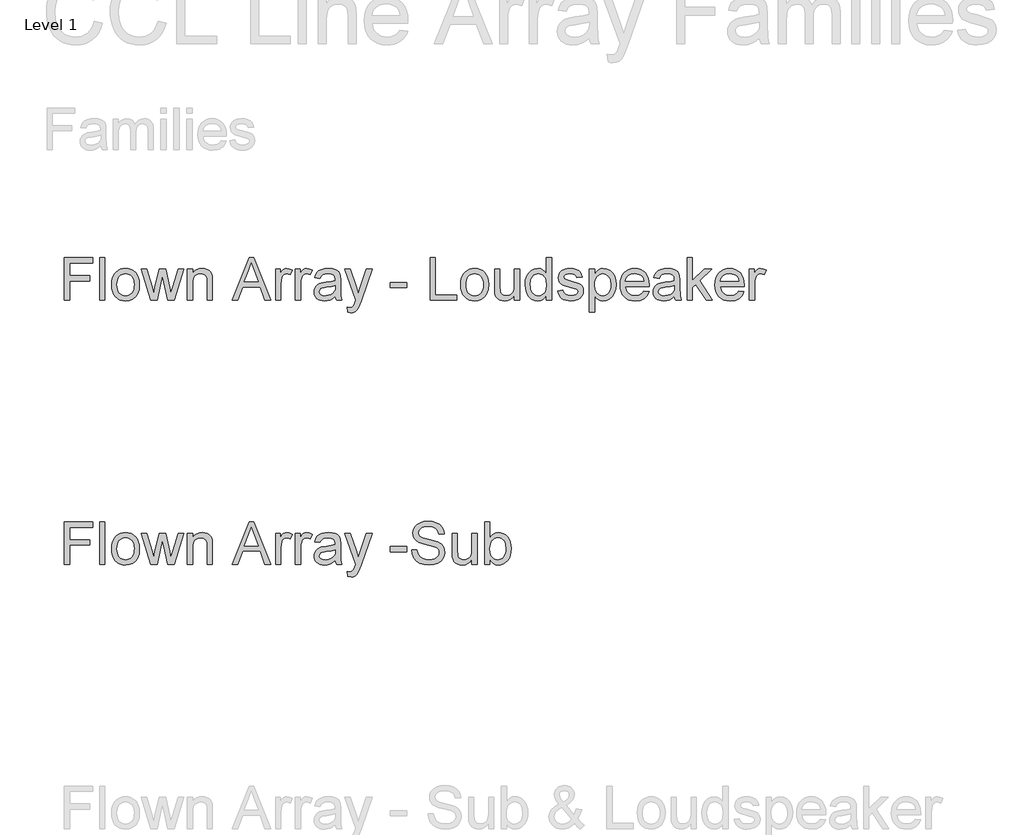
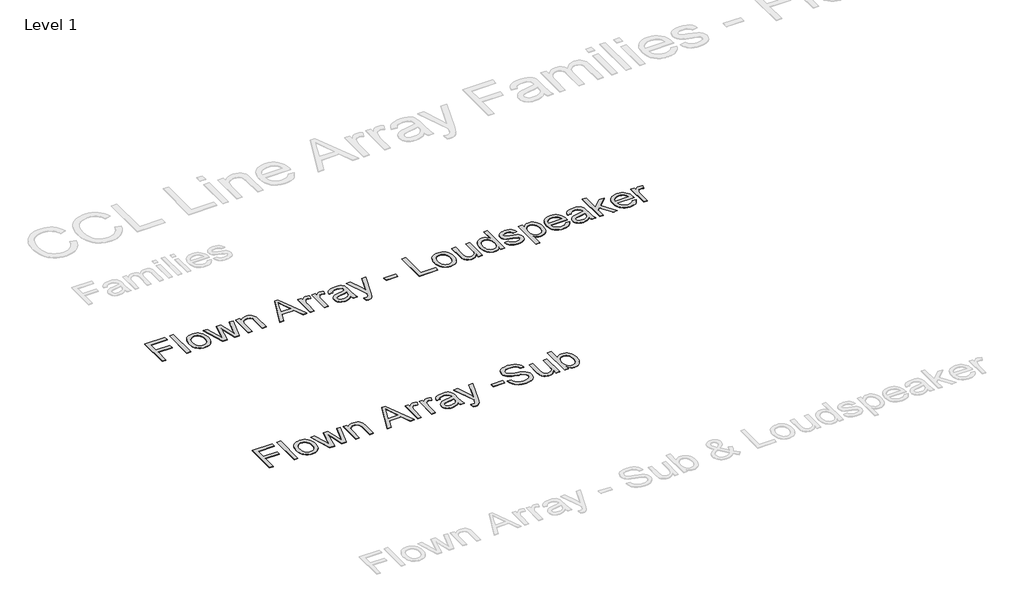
# One storey, part 20 of 31: 2 proxies.
"""IFC4 building model written with IfcOpenShell, lengths in millimetres."""

import ifcopenshell
import ifcopenshell.guid

model = None  # the IFC model being written
_history = None  # IfcOwnerHistory: only IFC2X3 demands one
_inside = {}  # id of a spatial element -> (the spatial element, [elements in it])
_under = {}  # id of a project, library or spatial element -> (it, [spatial elements below it])
_declared = {}  # id of a project -> (the project, [libraries it declares])
_typed = {}  # id of a type object -> (the type object, [elements of that type])
_made_of = {}  # id of a material, layer set ... -> (it, [elements and type objects made of it])


def new_model(schema):
    """Start an empty IFC model of exactly this schema.

    Asked for "IFC4X3", IfcOpenShell would pick the latest addendum, in which some entities
    have other attributes; the version numbers below select the first issue.
    IFC2X3 requires an IfcOwnerHistory on every rooted entity: one is made here for all.
    """
    global model, _history
    if schema == "IFC4X3":
        model = ifcopenshell.file(schema_version=(4, 3, 0, 0))
    else:
        model = ifcopenshell.file(schema=schema)
    _inside.clear()
    _under.clear()
    _declared.clear()
    _typed.clear()
    _made_of.clear()
    _history = None
    if model.schema == "IFC2X3":
        org = make("IfcOrganization", Name="unknown")
        user = make(
            "IfcPersonAndOrganization",
            ThePerson=make("IfcPerson", FamilyName="unknown"),
            TheOrganization=org,
        )
        app = make(
            "IfcApplication",
            ApplicationDeveloper=org,
            Version="unknown",
            ApplicationFullName="unknown",
            ApplicationIdentifier="unknown",
        )
        _history = make(
            "IfcOwnerHistory",
            OwningUser=user,
            OwningApplication=app,
            ChangeAction="ADDED",
            CreationDate=0,
        )
    return model


def make(cls, **values):
    """One entity of the class cls with the attributes given. An attribute that is None is left unset."""
    return model.create_entity(
        cls, **{name: value for name, value in values.items() if value is not None}
    )


def rooted(cls, **values):
    """An entity with a GlobalId (a new one), such as an element, a storey or a relation."""
    return make(cls, GlobalId=ifcopenshell.guid.new(), OwnerHistory=_history, **values)


def si_unit(unit_type, name, prefix=None):
    """IfcSIUnit, for example si_unit("LENGTHUNIT", "METRE", prefix="MILLI")."""
    return make("IfcSIUnit", UnitType=unit_type, Prefix=prefix, Name=name)


def assignment(units):
    """IfcUnitAssignment: the units of a project."""
    return None if units is None else make("IfcUnitAssignment", Units=units)


def point(xyz):
    """IfcCartesianPoint."""
    return None if xyz is None else make("IfcCartesianPoint", Coordinates=xyz)


def direction(xyz):
    """IfcDirection."""
    return None if xyz is None else make("IfcDirection", DirectionRatios=xyz)


def frame(location, z_axis=None, x_axis=None):
    """IfcAxis2Placement3D, a coordinate frame: its origin and axes. An axis left out is left unset."""
    return make(
        "IfcAxis2Placement3D",
        Location=point(location),
        Axis=direction(z_axis),
        RefDirection=direction(x_axis),
    )


def origin():
    """The frame at (0, 0, 0) with its axes left unset."""
    return frame((0.0, 0.0, 0.0))


def origin_with_axes():
    """The frame at (0, 0, 0) with the z axis (0, 0, 1) and the x axis (1, 0, 0) written out."""
    return frame((0.0, 0.0, 0.0), z_axis=(0.0, 0.0, 1.0), x_axis=(1.0, 0.0, 0.0))


def place(relative_to, where):
    """IfcLocalPlacement: puts the frame where relative to a parent placement (None: the world)."""
    return make(
        "IfcLocalPlacement", PlacementRelTo=relative_to, RelativePlacement=where
    )


def context(
    kind, dimensions, precision=None, world=None, true_north=None, identifier=None
):
    """IfcGeometricRepresentationContext, for example the 3D "Model" context."""
    return make(
        "IfcGeometricRepresentationContext",
        ContextIdentifier=identifier,
        ContextType=kind,
        CoordinateSpaceDimension=dimensions,
        Precision=precision,
        WorldCoordinateSystem=world,
        TrueNorth=true_north,
    )


def project(units=None, contexts=None):
    """IfcProject with its units and contexts."""
    return rooted(
        "IfcProject",
        Name="project",
        RepresentationContexts=contexts,
        UnitsInContext=assignment(units),
    )


def spatial(cls, under=None, at=None, **own):
    """A site, building, storey or space (cls), placed at a placement, below another one or the project."""
    s = rooted(cls, ObjectPlacement=at, **own)
    if under is not None:
        _under.setdefault(under.id(), (under, []))[1].append(s)
    return s


def polyline(points):
    """IfcPolyline through the points."""
    return make("IfcPolyline", Points=[point(p) for p in points])


def outline(outer, holes=None, kind="AREA"):
    """IfcArbitraryClosedProfileDef: a profile drawn as a closed curve; with holes, ...WithVoids."""
    if holes is None:
        return make("IfcArbitraryClosedProfileDef", ProfileType=kind, OuterCurve=outer)
    return make(
        "IfcArbitraryProfileDefWithVoids",
        ProfileType=kind,
        OuterCurve=outer,
        InnerCurves=holes,
    )


def extrude(swept, where, along, depth):
    """IfcExtrudedAreaSolid: the profile swept, set in the frame where, extruded along a direction by depth."""
    return make(
        "IfcExtrudedAreaSolid",
        SweptArea=swept,
        Position=where,
        ExtrudedDirection=direction(along),
        Depth=depth,
    )


def shape(context_of_items, identifier, shape_type, items):
    """IfcShapeRepresentation: the items that make up one representation, for example the "Body"."""
    return make(
        "IfcShapeRepresentation",
        ContextOfItems=context_of_items,
        RepresentationIdentifier=identifier,
        RepresentationType=shape_type,
        Items=items,
    )


def made_of(thing, what):
    """Note that an element or type object is made of a material, layer set ...; save() writes the relation."""
    if what is not None:
        _made_of.setdefault(what.id(), (what, []))[1].append(thing)
    return thing


def element(
    cls,
    number,
    at=None,
    inside=None,
    cuts=None,
    type_object=None,
    material=None,
    context=None,
    identifier="Body",
    shape_type=None,
    held_by="IfcProductDefinitionShape",
    body=None,
    shapes=None,
    **own,
):
    """One element of the class cls, such as IfcWall. Its Tag is "e" and its number.

    at: its placement. inside: the storey or other place that contains it. cuts: it is an
    opening in that element (IfcRelVoidsElement). A single representation is given by context,
    identifier, shape_type and body (its items); several are given by shapes. held_by: the class
    of the entity that holds the representations. save() writes the other relations.
    """
    e = rooted(cls, Tag="e%d" % number, ObjectPlacement=at, **own)
    if body is not None:
        shapes = [shape(context, identifier, shape_type, body)]
    if shapes is not None:
        e.Representation = make(held_by, Representations=shapes)
    if inside is not None:
        _inside.setdefault(inside.id(), (inside, []))[1].append(e)
    if cuts is not None:
        rooted(
            "IfcRelVoidsElement", RelatingBuildingElement=cuts, RelatedOpeningElement=e
        )
    if type_object is not None:
        _typed.setdefault(type_object.id(), (type_object, []))[1].append(e)
    return made_of(e, material)


def aggregate(whole, parts):
    """IfcRelAggregates: a whole, such as a stair, and the parts it consists of."""
    return rooted("IfcRelAggregates", RelatingObject=whole, RelatedObjects=parts)


def save(model, path):
    """Write the relations noted so far, then the file.

    IfcRelAggregates (storeys below a building ...), IfcRelContainedInSpatialStructure (elements
    in a storey), IfcRelDefinesByType, IfcRelAssociatesMaterial and IfcRelDeclares: one each for
    every whole, place, type object, material and project.
    """
    for whole, parts in _under.values():
        aggregate(whole, parts)
    for where, things in _inside.values():
        rooted(
            "IfcRelContainedInSpatialStructure",
            RelatedElements=things,
            RelatingStructure=where,
        )
    for kind, things in _typed.values():
        rooted("IfcRelDefinesByType", RelatedObjects=things, RelatingType=kind)
    for what, things in _made_of.values():
        rooted("IfcRelAssociatesMaterial", RelatedObjects=things, RelatingMaterial=what)
    for by, libraries in _declared.values():
        rooted("IfcRelDeclares", RelatingContext=by, RelatedDefinitions=libraries)
    model.write(path)


model = new_model("IFC4")

# Units and contexts
model_context = context("Model", 3, world=origin())
ifc_project = project(units=[si_unit("LENGTHUNIT", "METRE", prefix="MILLI")], contexts=[model_context])

# Site, building, storey
site = spatial("IfcSite", under=ifc_project)
building = spatial("IfcBuilding", under=site)
storey = spatial("IfcBuildingStorey", under=building, Name="Level 1", Elevation=0.0)

# Proxies
placement = place(None, origin())
element("IfcBuildingElementProxy", 1, Name="400mm Arial", ObjectType="400mm Arial", at=placement, inside=storey, context=model_context, shape_type="SweptSolid", body=[
    extrude(outline(polyline([(-20892.4795291, 6663.8227268), (-20892.4795291, 7065.6479674), (-20622.5031956, 7065.6479674), (-20622.5031956, 7015.4198123), (-20842.251374, 7015.4198123), (-20842.251374, 6896.127944), (-20653.8957925, 6896.127944), (-20653.8957925, 6845.899789), (-20842.251374, 6845.899789), (-20842.251374, 6663.8227268), (-20892.4795291, 6663.8227268)])), origin_with_axes(), (0.0, 0.0, 1.0), 5.0),
    extrude(outline(polyline([(-20559.7180017, 6663.8227268), (-20559.7180017, 7065.6479674), (-20509.4898467, 7065.6479674), (-20509.4898467, 6663.8227268), (-20559.7180017, 6663.8227268)])), origin_with_axes(), (0.0, 0.0, 1.0), 5.0),
    extrude(outline(polyline([(-20446.7046528, 6811.3679324), (-20443.9884574, 6849.5847403), (-20435.8398712, 6882.5163102), (-20422.2588942, 6910.1626422), (-20403.2455264, 6932.5237361), (-20384.1034, 6946.8159516), (-20362.9747107, 6957.024677), (-20339.8594587, 6963.1499122), (-20314.7576439, 6965.1916573), (-20287.0469326, 6962.7053881), (-20261.991103, 6955.2465807), (-20239.5901552, 6942.8152349), (-20219.8440891, 6925.4113509), (-20203.727792, 6903.6235397), (-20192.2161513, 6878.0404126), (-20185.3091668, 6848.6619696), (-20183.0068387, 6815.4882107), (-20187.0780661, 6764.7450208), (-20199.2917483, 6726.1174113), (-20219.2922661, 6697.1896238), (-20246.7240002, 6675.5458997), (-20279.3060823, 6662.0446305), (-20314.7576439, 6657.5442074), (-20342.8730254, 6660.0212795), (-20368.1618468, 6667.4524958), (-20390.6241083, 6679.8378563), (-20410.2598098, 6697.177361), (-20426.2044286, 6719.1767044), (-20437.5934421, 6745.5415807), (-20444.4268501, 6776.27199), (-20446.7046528, 6811.3679324)]), holes=[polyline([(-20396.4764977, 6811.4660342), (-20395.0233639, 6787.1030491), (-20390.6639622, 6766.0080823), (-20383.3982928, 6748.181134), (-20373.2263556, 6733.622204), (-20360.8532579, 6722.3128984), (-20346.9841066, 6714.2348229), (-20331.618902, 6709.3879776), (-20314.7576439, 6707.7723625), (-20297.9822249, 6709.3971747), (-20282.6783339, 6714.2716111), (-20268.8459709, 6722.3956718), (-20256.4851358, 6733.7693568), (-20246.3131987, 6748.4723739), (-20239.0475293, 6766.5844308), (-20234.6881276, 6788.1055275), (-20233.2349937, 6813.0356641), (-20234.6973247, 6836.626097), (-20239.0843175, 6857.1692408), (-20246.3959721, 6874.6650953), (-20256.6322886, 6889.1136607), (-20269.0391089, 6900.4229663), (-20282.8622749, 6908.5010418), (-20298.1017865, 6913.3478871), (-20314.7576439, 6914.9635022), (-20331.618902, 6913.3540185), (-20346.9841066, 6908.5255673), (-20360.8532579, 6900.4781486), (-20373.2263556, 6889.2117625), (-20383.3982928, 6874.6957521), (-20390.6639622, 6856.8994606), (-20395.0233639, 6835.822888), (-20396.4764977, 6811.4660342)])]), origin_with_axes(), (0.0, 0.0, 1.0), 5.0),
    extrude(outline(polyline([(-20077.1549259, 6663.8227268), (-20167.3105402, 6958.9131379), (-20115.2184497, 6958.9131379), (-20064.2054797, 6786.7443641), (-20048.9996906, 6725.2344945), (-20036.5407537, 6784.4880212), (-19996.0246833, 6958.9131379), (-19936.3787491, 6958.9131379), (-19895.8626787, 6784.9785306), (-19884.7771679, 6731.3168102), (-19868.8846657, 6787.9215865), (-19817.8716957, 6958.9131379), (-19765.4852996, 6958.9131379), (-19855.9352195, 6663.8227268), (-19916.5621723, 6663.8227268), (-19955.2143073, 6836.8744174), (-19966.3979199, 6890.8304433), (-20016.1355657, 6663.8227268), (-20077.1549259, 6663.8227268)])), origin_with_axes(), (0.0, 0.0, 1.0), 5.0),
    extrude(outline(polyline([(-19730.953443, 6663.8227268), (-19730.953443, 6958.9131379), (-19680.7252879, 6958.9131379), (-19680.7252879, 6917.7103544), (-19663.2754186, 6938.4834244), (-19642.3184076, 6953.3213316), (-19617.8542549, 6962.2240758), (-19589.8829606, 6965.1916573), (-19565.1245023, 6962.8004243), (-19542.4507087, 6955.6267254), (-19523.5415741, 6944.5657401), (-19510.0770931, 6930.5126479), (-19500.9413569, 6913.5042369), (-19495.0184568, 6893.5772955), (-19492.3697064, 6845.0168722), (-19492.3697064, 6663.8227268), (-19542.5978615, 6663.8227268), (-19542.5978615, 6838.2478435), (-19544.044864, 6864.2203123), (-19548.3858715, 6882.6879885), (-19556.3934363, 6895.9194776), (-19568.8401105, 6906.1833852), (-19584.7939263, 6912.768473), (-19603.3229161, 6914.9635022), (-19632.741213, 6910.0338835), (-19657.8185024, 6895.2450273), (-19667.840221, 6883.1723664), (-19674.9985915, 6866.672859), (-19679.2936138, 6845.7465048), (-19680.7252879, 6820.393304), (-19680.7252879, 6663.8227268), (-19730.953443, 6663.8227268)])), origin_with_axes(), (0.0, 0.0, 1.0), 5.0),
    extrude(outline(polyline([(-19306.7609771, 6663.8227268), (-19146.3644272, 7065.6479674), (-19103.5920139, 7065.6479674), (-18943.2935659, 6663.8227268), (-18996.366675, 6663.8227268), (-19042.278348, 6789.3931145), (-19207.8742968, 6789.3931145), (-19253.7859698, 6663.8227268), (-19306.7609771, 6663.8227268)]), holes=[polyline([(-19189.4311461, 6839.6212696), (-19060.6233968, 6839.6212696), (-19096.921087, 6938.409848), (-19125.0763224, 7015.4198123), (-19150.0922981, 6947.0428122), (-19189.4311461, 6839.6212696)])]), origin_with_axes(), (0.0, 0.0, 1.0), 5.0),
    extrude(outline(polyline([(-18895.9103649, 6663.8227268), (-18895.9103649, 6958.9131379), (-18851.9607292, 6958.9131379), (-18851.9607292, 6915.2578078), (-18835.7248705, 6940.5680891), (-18820.764336, 6955.4795726), (-18805.7547506, 6962.7636361), (-18789.3717391, 6965.1916573), (-18764.3557634, 6961.3166336), (-18738.9473803, 6949.6915625), (-18755.7227992, 6904.6628063), (-18773.381135, 6912.3883282), (-18791.0394708, 6914.9635022), (-18806.0367935, 6912.4864301), (-18819.4399608, 6905.0552138), (-18830.2679542, 6893.233939), (-18837.539755, 6877.5866915), (-18843.6465961, 6849.529558), (-18845.6822098, 6818.921776), (-18845.6822098, 6663.8227268), (-18895.9103649, 6663.8227268)])), origin_with_axes(), (0.0, 0.0, 1.0), 5.0),
    extrude(outline(polyline([(-18707.5547833, 6663.8227268), (-18707.5547833, 6958.9131379), (-18663.6051477, 6958.9131379), (-18663.6051477, 6915.2578078), (-18647.3692889, 6940.5680891), (-18632.4087545, 6955.4795726), (-18617.3991691, 6962.7636361), (-18601.0161575, 6965.1916573), (-18576.0001819, 6961.3166336), (-18550.5917987, 6949.6915625), (-18567.3672177, 6904.6628063), (-18585.0255535, 6912.3883282), (-18602.6838893, 6914.9635022), (-18617.6812119, 6912.4864301), (-18631.0843793, 6905.0552138), (-18641.9123727, 6893.233939), (-18649.1841734, 6877.5866915), (-18655.2910146, 6849.529558), (-18657.3266283, 6818.921776), (-18657.3266283, 6663.8227268), (-18707.5547833, 6663.8227268)])), origin_with_axes(), (0.0, 0.0, 1.0), 5.0),
    extrude(outline(polyline([(-18330.8436203, 6701.4938431), (-18354.8417891, 6680.9169769), (-18379.5511964, 6667.4524958), (-18405.535928, 6660.0212795), (-18433.3600696, 6657.5442074), (-18455.7242292, 6659.0341295), (-18475.3354053, 6663.5038958), (-18492.1935977, 6670.9535062), (-18506.2988065, 6681.3829607), (-18517.4364339, 6694.1300719), (-18525.3918821, 6708.532652), (-18530.165151, 6724.5907011), (-18531.7562406, 6742.3042191), (-18529.3527449, 6763.1263401), (-18522.1422578, 6782.0354746), (-18511.0199588, 6798.2222824), (-18496.8810274, 6810.877423), (-18480.265024, 6820.4423549), (-18461.7115087, 6827.3585364), (-18418.2523823, 6834.91238), (-18366.8960558, 6842.8586311), (-18331.1379259, 6852.1783084), (-18330.8436203, 6863.361921), (-18334.301711, 6885.7781972), (-18344.6759833, 6900.4444261), (-18367.8770745, 6911.3337332), (-18400.2016391, 6914.9635022), (-18430.122708, 6912.5477438), (-18451.0184054, 6905.3004685), (-18465.2677013, 6891.8973011), (-18475.2495661, 6871.0138665), (-18525.4777212, 6877.2923859), (-18516.7589179, 6904.7609082), (-18503.748158, 6926.3433186), (-18485.2314309, 6942.8489574), (-18459.9947261, 6955.0871651), (-18429.1294267, 6962.6655342), (-18393.726916, 6965.1916573), (-18359.7714078, 6962.9598398), (-18332.8547085, 6956.2643875), (-18312.5598851, 6946.1966836), (-18298.4700047, 6933.8481113), (-18289.125802, 6918.5810085), (-18283.0680118, 6899.7577131), (-18280.6154652, 6855.8080774), (-18280.6154652, 6793.3171891), (-18278.0648167, 6706.0555799), (-18268.0584264, 6663.8227268), (-18318.2865815, 6663.8227268), (-18326.3309345, 6681.2848589), (-18330.8436203, 6701.4938431)]), holes=[polyline([(-18330.8436203, 6801.9501533), (-18364.590662, 6793.5869693), (-18411.8757611, 6786.5481604), (-18455.0896328, 6778.4057056), (-18466.3345591, 6772.8384247), (-18474.6609549, 6765.1619538), (-18479.8113029, 6755.9649039), (-18481.5280855, 6745.8358863), (-18477.7879519, 6730.8998773), (-18466.567551, 6718.6616696), (-18448.1121376, 6710.4946893), (-18422.6669663, 6707.7723625), (-18395.6889533, 6710.7767321), (-18371.8502, 6719.789841), (-18352.5241325, 6733.070381), (-18339.084177, 6748.8770441), (-18333.1244887, 6765.1619538), (-18331.1379259, 6787.7253828), (-18330.8436203, 6801.9501533)])]), origin_with_axes(), (0.0, 0.0, 1.0), 5.0),
    extrude(outline(polyline([(-18211.551752, 6550.8093779), (-18217.8302714, 6599.1735975), (-18192.3237864, 6594.7590136), (-18178.9083563, 6596.1447024), (-18168.4850331, 6600.301769), (-18153.8678551, 6615.7528128), (-18140.133594, 6652.737216), (-18136.2095194, 6664.9018473), (-18242.9443489, 6958.9131379), (-18190.0674435, 6958.9131379), (-18133.3645653, 6794.9849208), (-18113.6460903, 6729.4528748), (-18093.9276154, 6787.4310772), (-18035.7532092, 6958.9131379), (-17983.2687112, 6958.9131379), (-18085.9813643, 6656.7593925), (-18112.6650717, 6591.2273464), (-18126.3257564, 6570.3071236), (-18141.8013257, 6555.812573), (-18159.7539671, 6547.3512871), (-18180.8458681, 6544.5308585), (-18211.551752, 6550.8093779)])), origin_with_axes(), (0.0, 0.0, 1.0), 5.0),
    extrude(outline(polyline([(-17809.7265114, 6783.1145951), (-17809.7265114, 6833.3427502), (-17652.7635268, 6833.3427502), (-17652.7635268, 6783.1145951), (-17809.7265114, 6783.1145951)])), origin_with_axes(), (0.0, 0.0, 1.0), 5.0),
    extrude(outline(polyline([(-17433.0153483, 6663.8227268), (-17433.0153483, 7065.6479674), (-17382.7871932, 7065.6479674), (-17382.7871932, 6714.0508819), (-17181.8745729, 6714.0508819), (-17181.8745729, 6663.8227268), (-17433.0153483, 6663.8227268)])), origin_with_axes(), (0.0, 0.0, 1.0), 5.0),
    extrude(outline(polyline([(-17144.2034566, 6811.3679324), (-17141.4872612, 6849.5847403), (-17133.338675, 6882.5163102), (-17119.7576981, 6910.1626422), (-17100.7443303, 6932.5237361), (-17081.6022038, 6946.8159516), (-17060.4735145, 6957.024677), (-17037.3582625, 6963.1499122), (-17012.2564477, 6965.1916573), (-16984.5457364, 6962.7053881), (-16959.4899069, 6955.2465807), (-16937.088959, 6942.8152349), (-16917.3428929, 6925.4113509), (-16901.2265959, 6903.6235397), (-16889.7149551, 6878.0404126), (-16882.8079707, 6848.6619696), (-16880.5056425, 6815.4882107), (-16884.5768699, 6764.7450208), (-16896.7905522, 6726.1174113), (-16916.79107, 6697.1896238), (-16944.2228041, 6675.5458997), (-16976.8048861, 6662.0446305), (-17012.2564477, 6657.5442074), (-17040.3718292, 6660.0212795), (-17065.6606507, 6667.4524958), (-17088.1229122, 6679.8378563), (-17107.7586137, 6697.177361), (-17123.7032325, 6719.1767044), (-17135.0922459, 6745.5415807), (-17141.925654, 6776.27199), (-17144.2034566, 6811.3679324)]), holes=[polyline([(-17093.9753016, 6811.4660342), (-17092.5221677, 6787.1030491), (-17088.162766, 6766.0080823), (-17080.8970966, 6748.181134), (-17070.7251595, 6733.622204), (-17058.3520617, 6722.3128984), (-17044.4829105, 6714.2348229), (-17029.1177058, 6709.3879776), (-17012.2564477, 6707.7723625), (-16995.4810287, 6709.3971747), (-16980.1771377, 6714.2716111), (-16966.3447747, 6722.3956718), (-16953.9839397, 6733.7693568), (-16943.8120025, 6748.4723739), (-16936.5463331, 6766.5844308), (-16932.1869315, 6788.1055275), (-16930.7337976, 6813.0356641), (-16932.1961285, 6836.626097), (-16936.5831213, 6857.1692408), (-16943.8947759, 6874.6650953), (-16954.1310925, 6889.1136607), (-16966.5379128, 6900.4229663), (-16980.3610787, 6908.5010418), (-16995.6005904, 6913.3478871), (-17012.2564477, 6914.9635022), (-17029.1177058, 6913.3540185), (-17044.4829105, 6908.5255673), (-17058.3520617, 6900.4781486), (-17070.7251595, 6889.2117625), (-17080.8970966, 6874.6957521), (-17088.162766, 6856.8994606), (-17092.5221677, 6835.822888), (-17093.9753016, 6811.4660342)])]), origin_with_axes(), (0.0, 0.0, 1.0), 5.0),
    extrude(outline(polyline([(-16635.6433865, 6663.8227268), (-16635.6433865, 6714.5413912), (-16653.8167571, 6689.6051233), (-16674.9822345, 6671.7935034), (-16699.1398189, 6661.1065314), (-16726.2895101, 6657.5442074), (-16750.7536628, 6660.045805), (-16773.5255583, 6667.5505977), (-16792.6308966, 6678.8323122), (-16806.0953776, 6692.6646752), (-16815.1575374, 6709.4646197), (-16821.0559121, 6729.6490785), (-16823.998968, 6776.3455664), (-16823.998968, 6958.9131379), (-16773.770813, 6958.9131379), (-16773.770813, 6799.988116), (-16770.7296551, 6748.7789422), (-16763.4088034, 6731.6969549), (-16750.8640274, 6718.7107205), (-16733.9291929, 6710.506952), (-16713.4381658, 6707.7723625), (-16691.7699162, 6710.5682657), (-16671.4996183, 6718.9559752), (-16654.785513, 6732.1629388), (-16643.7858413, 6749.4166044), (-16637.6790002, 6773.0468912), (-16635.6433865, 6805.3837186), (-16635.6433865, 6958.9131379), (-16585.4152314, 6958.9131379), (-16585.4152314, 6663.8227268), (-16635.6433865, 6663.8227268)])), origin_with_axes(), (0.0, 0.0, 1.0), 5.0),
    extrude(outline(polyline([(-16334.2744561, 6663.8227268), (-16334.2744561, 6711.2059278), (-16349.3024356, 6687.7289251), (-16367.506463, 6670.9596375), (-16388.8865382, 6660.898065), (-16413.4426614, 6657.5442074), (-16445.9143789, 6662.4002498), (-16475.6392441, 6676.9683768), (-16500.8023725, 6700.2307816), (-16519.5888798, 6731.1696574), (-16531.2875272, 6768.5342054), (-16535.1870764, 6811.0736268), (-16531.5940955, 6853.0857506), (-16520.8151531, 6891.026647), (-16502.8625117, 6922.738075), (-16477.7484342, 6946.0617935), (-16447.3736441, 6960.4091913), (-16413.6388652, 6965.1916573), (-16389.0643479, 6961.7703547), (-16367.3347847, 6951.506447), (-16348.9161595, 6935.7733604), (-16334.2744561, 6915.9445208), (-16334.2744561, 7065.6479674), (-16284.046301, 7065.6479674), (-16284.046301, 6663.8227268), (-16334.2744561, 6663.8227268)]), holes=[polyline([(-16484.9589213, 6811.2698305), (-16483.5425756, 6786.9129767), (-16479.2935386, 6765.8364041), (-16472.2118102, 6748.0401126), (-16462.2973904, 6733.5241022), (-16437.6002458, 6714.2102974), (-16423.7249632, 6709.3818462), (-16408.8318737, 6707.7723625), (-16393.8682736, 6709.3082698), (-16380.0757645, 6713.9159918), (-16356.0040192, 6732.3468798), (-16346.4973353, 6746.2558849), (-16339.7068469, 6763.4083829), (-16334.2744561, 6807.4438577), (-16339.8049487, 6855.5873482), (-16346.7180645, 6874.1224694), (-16356.3964267, 6888.9665079), (-16368.0981398, 6900.3401929), (-16381.0813086, 6908.4642536), (-16395.3459329, 6913.33869), (-16410.8920129, 6914.9635022), (-16426.079408, 6913.4030694), (-16439.9546905, 6908.721771), (-16452.5178607, 6900.919607), (-16463.7689184, 6889.9965775), (-16473.0395446, 6875.713559), (-16479.6614206, 6857.8314283), (-16484.9589213, 6811.2698305)])]), origin_with_axes(), (0.0, 0.0, 1.0), 5.0),
    extrude(outline(polyline([(-16227.5396265, 6751.7219982), (-16177.3114714, 6758.0005176), (-16169.3897458, 6736.5162091), (-16154.0613294, 6720.7218087), (-16131.2281202, 6711.0097241), (-16100.7920165, 6707.7723625), (-16070.7237947, 6710.7399439), (-16049.5828427, 6719.6426882), (-16037.0748549, 6732.5430835), (-16032.9055256, 6747.503618), (-16037.0993804, 6760.3059114), (-16049.6809446, 6770.067047), (-16101.3806276, 6784.3899194), (-16177.0171659, 6808.9644367), (-16196.1592923, 6821.313009), (-16210.0284436, 6837.6592323), (-16218.4529412, 6856.9607743), (-16221.2611071, 6878.1753027), (-16219.0047642, 6897.6362602), (-16212.2357355, 6915.6011643), (-16201.5671577, 6931.3587764), (-16187.6121673, 6944.1978581), (-16155.6800101, 6959.0602907), (-16134.7965755, 6963.6588156), (-16112.4661384, 6965.1916573), (-16079.7736918, 6962.7268479), (-16051.3486763, 6955.3324198), (-16028.4909417, 6943.7318742), (-16012.5003376, 6928.6487124), (-16001.9053361, 6908.9670257), (-15995.2344093, 6883.5709053), (-16045.4625644, 6877.2923859), (-16051.8023974, 6893.0990489), (-16064.3471735, 6905.0061629), (-16083.2195198, 6912.4741674), (-16108.5420638, 6914.9635022), (-16137.3840122, 6912.584532), (-16156.6119779, 6905.4476213), (-16167.4277085, 6895.1469254), (-16171.0329521, 6883.2765997), (-16165.0487383, 6868.6594217), (-16146.311282, 6857.5739109), (-16103.0483594, 6846.8808076), (-16029.3248075, 6823.2382581), (-16009.8515872, 6811.9320181), (-15995.0872565, 6796.4564488), (-15985.779842, 6776.7624993), (-15982.6773705, 6752.8011187), (-15986.3194023, 6728.0303977), (-15997.2454975, 6704.7312047), (-16015.0387234, 6684.7306869), (-16039.2821469, 6669.8559915), (-16068.5655537, 6660.6221535), (-16101.4787295, 6657.5442074), (-16128.5119248, 6659.0279981), (-16152.1238175, 6663.4793703), (-16172.3144077, 6670.8983239), (-16189.0836953, 6681.2848589), (-16202.7811682, 6694.5899243), (-16213.7563144, 6710.7644694), (-16222.0091339, 6729.808494), (-16227.5396265, 6751.7219982)])), origin_with_axes(), (0.0, 0.0, 1.0), 5.0),
    extrude(outline(polyline([(-15926.1706961, 6550.8093779), (-15926.1706961, 6958.9131379), (-15875.942541, 6958.9131379), (-15875.942541, 6909.6660015), (-15859.5595295, 6933.9584759), (-15841.2144807, 6951.3102433), (-15819.828274, 6961.7213038), (-15794.321789, 6965.1916573), (-15760.3540181, 6960.3356149), (-15730.6536784, 6945.7674879), (-15706.4715686, 6922.370193), (-15689.0584875, 6891.026647), (-15678.5370624, 6854.0177183), (-15675.0299207, 6813.6242753), (-15678.9907835, 6770.667921), (-15690.873372, 6732.2487779), (-15710.2975413, 6700.3166207), (-15736.8831468, 6676.821224), (-15767.8465481, 6662.3634616), (-15800.4041047, 6657.5442074), (-15823.4948312, 6660.7693063), (-15844.1084857, 6670.4446027), (-15861.7545587, 6685.0495179), (-15875.942541, 6703.063473), (-15875.942541, 6550.8093779), (-15926.1706961, 6550.8093779)]), holes=[polyline([(-15875.942541, 6809.0134876), (-15870.5101502, 6763.9847314), (-15863.7196617, 6746.5471248), (-15854.2129778, 6732.4940326), (-15830.1657581, 6713.95278), (-15816.4039058, 6709.3174669), (-15801.4832252, 6707.7723625), (-15786.3479468, 6709.3726492), (-15772.3347084, 6714.1735092), (-15759.4435102, 6722.1749426), (-15747.674352, 6733.3769494), (-15737.8672312, 6747.938945), (-15730.8621448, 6766.0203451), (-15726.659093, 6787.6211496), (-15725.2580758, 6812.7413585), (-15730.7272548, 6857.52486), (-15737.5637285, 6875.0973566), (-15747.1347918, 6889.4570172), (-15771.1452233, 6908.5868809), (-15784.7507258, 6913.3693469), (-15799.423086, 6914.9635022), (-15814.049461, 6913.2681793), (-15827.8113133, 6908.1822107), (-15852.7414498, 6887.8383364), (-15862.8919272, 6872.7398462), (-15870.1422682, 6854.5695413), (-15874.4924728, 6833.3274218), (-15875.942541, 6809.0134876)])]), origin_with_axes(), (0.0, 0.0, 1.0), 5.0),
    extrude(outline(polyline([(-15411.9207178, 6751.7219982), (-15362.6735813, 6745.4434788), (-15370.2243593, 6725.7188725), (-15380.4177562, 6708.3364482), (-15393.2537722, 6693.296206), (-15408.7324071, 6680.5981458), (-15426.6942455, 6670.5120478), (-15446.9798719, 6663.307692), (-15494.5224884, 6657.5442074), (-15525.6882248, 6660.0304766), (-15553.457184, 6667.489284), (-15577.8293662, 6679.9206298), (-15598.8047713, 6697.3245138), (-15615.6721608, 6719.2165582), (-15627.7202961, 6745.112385), (-15634.9491773, 6775.0119942), (-15637.3588044, 6808.9153857), (-15634.9246519, 6843.9684085), (-15627.6221943, 6874.8643647), (-15615.4514316, 6901.6032544), (-15598.4123638, 6924.1850775), (-15577.492141, 6942.1254562), (-15553.6779132, 6954.9400123), (-15526.9696804, 6962.628746), (-15497.3674425, 6965.1916573), (-15468.7186321, 6962.6348774), (-15442.8105426, 6954.9645378), (-15419.643174, 6942.1806385), (-15399.2165262, 6924.2831794), (-15382.5422748, 6901.7504072), (-15370.6320952, 6875.0605685), (-15363.4859874, 6844.2136632), (-15361.1039515, 6809.2096913), (-15361.3982571, 6795.6716339), (-15587.1306493, 6795.6716339), (-15584.2213159, 6775.6281965), (-15578.4363715, 6758.074094), (-15569.7758162, 6743.0093263), (-15558.23965, 6730.4338934), (-15544.4655349, 6720.5194736), (-15529.0911332, 6713.4377452), (-15493.5414697, 6707.7723625), (-15466.8087114, 6710.3965874), (-15444.2943333, 6718.2692621), (-15425.9983354, 6731.8808959), (-15411.9207178, 6751.7219982)]), holes=[polyline([(-15587.1306493, 6845.899789), (-15411.3321066, 6845.899789), (-15418.1256607, 6872.4363436), (-15431.442989, 6891.4190545), (-15445.1404619, 6901.7197504), (-15460.7263958, 6909.0773903), (-15478.2007905, 6913.4919742), (-15497.5636462, 6914.9635022), (-15531.4210525, 6910.2668754), (-15559.4168724, 6896.176995), (-15578.8778299, 6874.2144399), (-15587.1306493, 6845.899789)])]), origin_with_axes(), (0.0, 0.0, 1.0), 5.0),
    extrude(outline(polyline([(-15122.5202149, 6701.4938431), (-15146.5183837, 6680.9169769), (-15171.227791, 6667.4524958), (-15197.2125226, 6660.0212795), (-15225.0366642, 6657.5442074), (-15247.4008238, 6659.0341295), (-15267.0119999, 6663.5038958), (-15283.8701923, 6670.9535062), (-15297.9754011, 6681.3829607), (-15309.1130285, 6694.1300719), (-15317.0684767, 6708.532652), (-15321.8417455, 6724.5907011), (-15323.4328352, 6742.3042191), (-15321.0293395, 6763.1263401), (-15313.8188524, 6782.0354746), (-15302.6965534, 6798.2222824), (-15288.557622, 6810.877423), (-15271.9416186, 6820.4423549), (-15253.3881033, 6827.3585364), (-15209.9289769, 6834.91238), (-15158.5726504, 6842.8586311), (-15122.8145205, 6852.1783084), (-15122.5202149, 6863.361921), (-15125.9783056, 6885.7781972), (-15136.3525779, 6900.4444261), (-15159.5536691, 6911.3337332), (-15191.8782337, 6914.9635022), (-15221.7993026, 6912.5477438), (-15242.695, 6905.3004685), (-15256.9442959, 6891.8973011), (-15266.9261607, 6871.0138665), (-15317.1543158, 6877.2923859), (-15308.4355125, 6904.7609082), (-15295.4247526, 6926.3433186), (-15276.9080255, 6942.8489574), (-15251.6713207, 6955.0871651), (-15220.8060213, 6962.6655342), (-15185.4035106, 6965.1916573), (-15151.4480024, 6962.9598398), (-15124.5313031, 6956.2643875), (-15104.2364797, 6946.1966836), (-15090.1465993, 6933.8481113), (-15080.8023966, 6918.5810085), (-15074.7446064, 6899.7577131), (-15072.2920598, 6855.8080774), (-15072.2920598, 6793.3171891), (-15069.7414113, 6706.0555799), (-15059.735021, 6663.8227268), (-15109.9631761, 6663.8227268), (-15118.0075291, 6681.2848589), (-15122.5202149, 6701.4938431)]), holes=[polyline([(-15122.5202149, 6801.9501533), (-15156.2672566, 6793.5869693), (-15203.5523557, 6786.5481604), (-15246.7662274, 6778.4057056), (-15258.0111537, 6772.8384247), (-15266.3375495, 6765.1619538), (-15271.4878975, 6755.9649039), (-15273.2046801, 6745.8358863), (-15269.4645465, 6730.8998773), (-15258.2441456, 6718.6616696), (-15239.7887322, 6710.4946893), (-15214.3435609, 6707.7723625), (-15187.3655479, 6710.7767321), (-15163.5267946, 6719.789841), (-15144.2007271, 6733.070381), (-15130.7607716, 6748.8770441), (-15124.8010832, 6765.1619538), (-15122.8145205, 6787.7253828), (-15122.5202149, 6801.9501533)])]), origin_with_axes(), (0.0, 0.0, 1.0), 5.0),
    extrude(outline(polyline([(-15003.2283466, 6663.8227268), (-15003.2283466, 7065.6479674), (-14953.0001915, 7065.6479674), (-14953.0001915, 6849.7257617), (-14840.37925, 6958.9131379), (-14770.9231294, 6958.9131379), (-14885.0155988, 6848.3523356), (-14764.64461, 6663.8227268), (-14823.3095255, 6663.8227268), (-14921.0189834, 6813.4280715), (-14953.0001915, 6782.3297802), (-14953.0001915, 6663.8227268), (-15003.2283466, 6663.8227268)])), origin_with_axes(), (0.0, 0.0, 1.0), 5.0),
    extrude(outline(polyline([(-14514.0924458, 6751.7219982), (-14464.8453094, 6745.4434788), (-14472.3960873, 6725.7188725), (-14482.5894843, 6708.3364482), (-14495.4255002, 6693.296206), (-14510.9041352, 6680.5981458), (-14528.8659736, 6670.5120478), (-14549.1515999, 6663.307692), (-14596.6942164, 6657.5442074), (-14627.8599528, 6660.0304766), (-14655.6289121, 6667.489284), (-14680.0010942, 6679.9206298), (-14700.9764993, 6697.3245138), (-14717.8438888, 6719.2165582), (-14729.8920242, 6745.112385), (-14737.1209054, 6775.0119942), (-14739.5305324, 6808.9153857), (-14737.0963799, 6843.9684085), (-14729.7939223, 6874.8643647), (-14717.6231596, 6901.6032544), (-14700.5840919, 6924.1850775), (-14679.6638691, 6942.1254562), (-14655.8496413, 6954.9400123), (-14629.1414084, 6962.628746), (-14599.5391705, 6965.1916573), (-14570.8903602, 6962.6348774), (-14544.9822707, 6954.9645378), (-14521.814902, 6942.1806385), (-14501.3882542, 6924.2831794), (-14484.7140028, 6901.7504072), (-14472.8038232, 6875.0605685), (-14465.6577154, 6844.2136632), (-14463.2756795, 6809.2096913), (-14463.5699851, 6795.6716339), (-14689.3023774, 6795.6716339), (-14686.3930439, 6775.6281965), (-14680.6080995, 6758.074094), (-14671.9475442, 6743.0093263), (-14660.411378, 6730.4338934), (-14646.637263, 6720.5194736), (-14631.2628613, 6713.4377452), (-14595.7131978, 6707.7723625), (-14568.9804395, 6710.3965874), (-14546.4660614, 6718.2692621), (-14528.1700635, 6731.8808959), (-14514.0924458, 6751.7219982)]), holes=[polyline([(-14689.3023774, 6845.899789), (-14513.5038346, 6845.899789), (-14520.2973888, 6872.4363436), (-14533.614717, 6891.4190545), (-14547.31219, 6901.7197504), (-14562.8981238, 6909.0773903), (-14580.3725186, 6913.4919742), (-14599.7353743, 6914.9635022), (-14633.5927806, 6910.2668754), (-14661.5886004, 6896.176995), (-14681.0495579, 6874.2144399), (-14689.3023774, 6845.899789)])]), origin_with_axes(), (0.0, 0.0, 1.0), 5.0),
    extrude(outline(polyline([(-14413.0475244, 6663.8227268), (-14413.0475244, 6958.9131379), (-14369.0978888, 6958.9131379), (-14369.0978888, 6915.2578078), (-14352.86203, 6940.5680891), (-14337.9014956, 6955.4795726), (-14322.8919102, 6962.7636361), (-14306.5088986, 6965.1916573), (-14281.492923, 6961.3166336), (-14256.0845398, 6949.6915625), (-14272.8599588, 6904.6628063), (-14290.5182946, 6912.3883282), (-14308.1766304, 6914.9635022), (-14323.173953, 6912.4864301), (-14336.5771204, 6905.0552138), (-14347.4051138, 6893.233939), (-14354.6769145, 6877.5866915), (-14360.7837557, 6849.529558), (-14362.8193694, 6818.921776), (-14362.8193694, 6663.8227268), (-14413.0475244, 6663.8227268)])), origin_with_axes(), (0.0, 0.0, 1.0), 5.0),
])
element("IfcBuildingElementProxy", 2, Name="400mm Arial", ObjectType="400mm Arial", at=placement, inside=storey, context=model_context, shape_type="SweptSolid", body=[
    extrude(outline(polyline([(-20892.4795291, 4163.8227268), (-20892.4795291, 4565.6479674), (-20622.5031956, 4565.6479674), (-20622.5031956, 4515.4198123), (-20842.251374, 4515.4198123), (-20842.251374, 4396.127944), (-20653.8957925, 4396.127944), (-20653.8957925, 4345.899789), (-20842.251374, 4345.899789), (-20842.251374, 4163.8227268), (-20892.4795291, 4163.8227268)])), origin_with_axes(), (0.0, 0.0, 1.0), 5.0),
    extrude(outline(polyline([(-20559.7180017, 4163.8227268), (-20559.7180017, 4565.6479674), (-20509.4898467, 4565.6479674), (-20509.4898467, 4163.8227268), (-20559.7180017, 4163.8227268)])), origin_with_axes(), (0.0, 0.0, 1.0), 5.0),
    extrude(outline(polyline([(-20446.7046528, 4311.3679324), (-20443.9884574, 4349.5847403), (-20435.8398712, 4382.5163102), (-20422.2588942, 4410.1626422), (-20403.2455264, 4432.5237361), (-20384.1034, 4446.8159516), (-20362.9747107, 4457.024677), (-20339.8594587, 4463.1499122), (-20314.7576439, 4465.1916573), (-20287.0469326, 4462.7053881), (-20261.991103, 4455.2465807), (-20239.5901552, 4442.8152349), (-20219.8440891, 4425.4113509), (-20203.727792, 4403.6235397), (-20192.2161513, 4378.0404126), (-20185.3091668, 4348.6619696), (-20183.0068387, 4315.4882107), (-20187.0780661, 4264.7450208), (-20199.2917483, 4226.1174113), (-20219.2922661, 4197.1896238), (-20246.7240002, 4175.5458997), (-20279.3060823, 4162.0446305), (-20314.7576439, 4157.5442074), (-20342.8730254, 4160.0212795), (-20368.1618468, 4167.4524958), (-20390.6241083, 4179.8378563), (-20410.2598098, 4197.177361), (-20426.2044286, 4219.1767044), (-20437.5934421, 4245.5415807), (-20444.4268501, 4276.27199), (-20446.7046528, 4311.3679324)]), holes=[polyline([(-20396.4764977, 4311.4660342), (-20395.0233639, 4287.1030491), (-20390.6639622, 4266.0080823), (-20383.3982928, 4248.181134), (-20373.2263556, 4233.622204), (-20360.8532579, 4222.3128984), (-20346.9841066, 4214.2348229), (-20331.618902, 4209.3879776), (-20314.7576439, 4207.7723625), (-20297.9822249, 4209.3971747), (-20282.6783339, 4214.2716111), (-20268.8459709, 4222.3956718), (-20256.4851358, 4233.7693568), (-20246.3131987, 4248.4723739), (-20239.0475293, 4266.5844308), (-20234.6881276, 4288.1055275), (-20233.2349937, 4313.0356641), (-20234.6973247, 4336.626097), (-20239.0843175, 4357.1692408), (-20246.3959721, 4374.6650953), (-20256.6322886, 4389.1136607), (-20269.0391089, 4400.4229663), (-20282.8622749, 4408.5010418), (-20298.1017865, 4413.3478871), (-20314.7576439, 4414.9635022), (-20331.618902, 4413.3540185), (-20346.9841066, 4408.5255673), (-20360.8532579, 4400.4781486), (-20373.2263556, 4389.2117625), (-20383.3982928, 4374.6957521), (-20390.6639622, 4356.8994606), (-20395.0233639, 4335.822888), (-20396.4764977, 4311.4660342)])]), origin_with_axes(), (0.0, 0.0, 1.0), 5.0),
    extrude(outline(polyline([(-20077.1549259, 4163.8227268), (-20167.3105402, 4458.9131379), (-20115.2184497, 4458.9131379), (-20064.2054797, 4286.7443641), (-20048.9996906, 4225.2344945), (-20036.5407537, 4284.4880212), (-19996.0246833, 4458.9131379), (-19936.3787491, 4458.9131379), (-19895.8626787, 4284.9785306), (-19884.7771679, 4231.3168102), (-19868.8846657, 4287.9215865), (-19817.8716957, 4458.9131379), (-19765.4852996, 4458.9131379), (-19855.9352195, 4163.8227268), (-19916.5621723, 4163.8227268), (-19955.2143073, 4336.8744174), (-19966.3979199, 4390.8304433), (-20016.1355657, 4163.8227268), (-20077.1549259, 4163.8227268)])), origin_with_axes(), (0.0, 0.0, 1.0), 5.0),
    extrude(outline(polyline([(-19730.953443, 4163.8227268), (-19730.953443, 4458.9131379), (-19680.7252879, 4458.9131379), (-19680.7252879, 4417.7103544), (-19663.2754186, 4438.4834244), (-19642.3184076, 4453.3213316), (-19617.8542549, 4462.2240758), (-19589.8829606, 4465.1916573), (-19565.1245023, 4462.8004243), (-19542.4507087, 4455.6267254), (-19523.5415741, 4444.5657401), (-19510.0770931, 4430.5126479), (-19500.9413569, 4413.5042369), (-19495.0184568, 4393.5772955), (-19492.3697064, 4345.0168722), (-19492.3697064, 4163.8227268), (-19542.5978615, 4163.8227268), (-19542.5978615, 4338.2478435), (-19544.044864, 4364.2203123), (-19548.3858715, 4382.6879885), (-19556.3934363, 4395.9194776), (-19568.8401105, 4406.1833852), (-19584.7939263, 4412.768473), (-19603.3229161, 4414.9635022), (-19632.741213, 4410.0338835), (-19657.8185024, 4395.2450273), (-19667.840221, 4383.1723664), (-19674.9985915, 4366.672859), (-19679.2936138, 4345.7465048), (-19680.7252879, 4320.393304), (-19680.7252879, 4163.8227268), (-19730.953443, 4163.8227268)])), origin_with_axes(), (0.0, 0.0, 1.0), 5.0),
    extrude(outline(polyline([(-19306.7609771, 4163.8227268), (-19146.3644272, 4565.6479674), (-19103.5920139, 4565.6479674), (-18943.2935659, 4163.8227268), (-18996.366675, 4163.8227268), (-19042.278348, 4289.3931145), (-19207.8742968, 4289.3931145), (-19253.7859698, 4163.8227268), (-19306.7609771, 4163.8227268)]), holes=[polyline([(-19189.4311461, 4339.6212696), (-19060.6233968, 4339.6212696), (-19096.921087, 4438.409848), (-19125.0763224, 4515.4198123), (-19150.0922981, 4447.0428122), (-19189.4311461, 4339.6212696)])]), origin_with_axes(), (0.0, 0.0, 1.0), 5.0),
    extrude(outline(polyline([(-18895.9103649, 4163.8227268), (-18895.9103649, 4458.9131379), (-18851.9607292, 4458.9131379), (-18851.9607292, 4415.2578078), (-18835.7248705, 4440.5680891), (-18820.764336, 4455.4795726), (-18805.7547506, 4462.7636361), (-18789.3717391, 4465.1916573), (-18764.3557634, 4461.3166336), (-18738.9473803, 4449.6915625), (-18755.7227992, 4404.6628063), (-18773.381135, 4412.3883282), (-18791.0394708, 4414.9635022), (-18806.0367935, 4412.4864301), (-18819.4399608, 4405.0552138), (-18830.2679542, 4393.233939), (-18837.539755, 4377.5866915), (-18843.6465961, 4349.529558), (-18845.6822098, 4318.921776), (-18845.6822098, 4163.8227268), (-18895.9103649, 4163.8227268)])), origin_with_axes(), (0.0, 0.0, 1.0), 5.0),
    extrude(outline(polyline([(-18707.5547833, 4163.8227268), (-18707.5547833, 4458.9131379), (-18663.6051477, 4458.9131379), (-18663.6051477, 4415.2578078), (-18647.3692889, 4440.5680891), (-18632.4087545, 4455.4795726), (-18617.3991691, 4462.7636361), (-18601.0161575, 4465.1916573), (-18576.0001819, 4461.3166336), (-18550.5917987, 4449.6915625), (-18567.3672177, 4404.6628063), (-18585.0255535, 4412.3883282), (-18602.6838893, 4414.9635022), (-18617.6812119, 4412.4864301), (-18631.0843793, 4405.0552138), (-18641.9123727, 4393.233939), (-18649.1841734, 4377.5866915), (-18655.2910146, 4349.529558), (-18657.3266283, 4318.921776), (-18657.3266283, 4163.8227268), (-18707.5547833, 4163.8227268)])), origin_with_axes(), (0.0, 0.0, 1.0), 5.0),
    extrude(outline(polyline([(-18330.8436203, 4201.4938431), (-18354.8417891, 4180.9169769), (-18379.5511964, 4167.4524958), (-18405.535928, 4160.0212795), (-18433.3600696, 4157.5442074), (-18455.7242292, 4159.0341295), (-18475.3354053, 4163.5038958), (-18492.1935977, 4170.9535062), (-18506.2988065, 4181.3829607), (-18517.4364339, 4194.1300719), (-18525.3918821, 4208.532652), (-18530.165151, 4224.5907011), (-18531.7562406, 4242.3042191), (-18529.3527449, 4263.1263401), (-18522.1422578, 4282.0354746), (-18511.0199588, 4298.2222824), (-18496.8810274, 4310.877423), (-18480.265024, 4320.4423549), (-18461.7115087, 4327.3585364), (-18418.2523823, 4334.91238), (-18366.8960558, 4342.8586311), (-18331.1379259, 4352.1783084), (-18330.8436203, 4363.361921), (-18334.301711, 4385.7781972), (-18344.6759833, 4400.4444261), (-18367.8770745, 4411.3337332), (-18400.2016391, 4414.9635022), (-18430.122708, 4412.5477438), (-18451.0184054, 4405.3004685), (-18465.2677013, 4391.8973011), (-18475.2495661, 4371.0138665), (-18525.4777212, 4377.2923859), (-18516.7589179, 4404.7609082), (-18503.748158, 4426.3433186), (-18485.2314309, 4442.8489574), (-18459.9947261, 4455.0871651), (-18429.1294267, 4462.6655342), (-18393.726916, 4465.1916573), (-18359.7714078, 4462.9598398), (-18332.8547085, 4456.2643875), (-18312.5598851, 4446.1966836), (-18298.4700047, 4433.8481113), (-18289.125802, 4418.5810085), (-18283.0680118, 4399.7577131), (-18280.6154652, 4355.8080774), (-18280.6154652, 4293.3171891), (-18278.0648167, 4206.0555799), (-18268.0584264, 4163.8227268), (-18318.2865815, 4163.8227268), (-18326.3309345, 4181.2848589), (-18330.8436203, 4201.4938431)]), holes=[polyline([(-18330.8436203, 4301.9501533), (-18364.590662, 4293.5869693), (-18411.8757611, 4286.5481604), (-18455.0896328, 4278.4057056), (-18466.3345591, 4272.8384247), (-18474.6609549, 4265.1619538), (-18479.8113029, 4255.9649039), (-18481.5280855, 4245.8358863), (-18477.7879519, 4230.8998773), (-18466.567551, 4218.6616696), (-18448.1121376, 4210.4946893), (-18422.6669663, 4207.7723625), (-18395.6889533, 4210.7767321), (-18371.8502, 4219.789841), (-18352.5241325, 4233.070381), (-18339.084177, 4248.8770441), (-18333.1244887, 4265.1619538), (-18331.1379259, 4287.7253828), (-18330.8436203, 4301.9501533)])]), origin_with_axes(), (0.0, 0.0, 1.0), 5.0),
    extrude(outline(polyline([(-18211.551752, 4050.8093779), (-18217.8302714, 4099.1735975), (-18192.3237864, 4094.7590136), (-18178.9083563, 4096.1447024), (-18168.4850331, 4100.301769), (-18153.8678551, 4115.7528128), (-18140.133594, 4152.737216), (-18136.2095194, 4164.9018473), (-18242.9443489, 4458.9131379), (-18190.0674435, 4458.9131379), (-18133.3645653, 4294.9849208), (-18113.6460903, 4229.4528748), (-18093.9276154, 4287.4310772), (-18035.7532092, 4458.9131379), (-17983.2687112, 4458.9131379), (-18085.9813643, 4156.7593925), (-18112.6650717, 4091.2273464), (-18126.3257564, 4070.3071236), (-18141.8013257, 4055.812573), (-18159.7539671, 4047.3512871), (-18180.8458681, 4044.5308585), (-18211.551752, 4050.8093779)])), origin_with_axes(), (0.0, 0.0, 1.0), 5.0),
    extrude(outline(polyline([(-17809.7265114, 4283.1145951), (-17809.7265114, 4333.3427502), (-17652.7635268, 4333.3427502), (-17652.7635268, 4283.1145951), (-17809.7265114, 4283.1145951)])), origin_with_axes(), (0.0, 0.0, 1.0), 5.0),
    extrude(outline(polyline([(-17608.8138911, 4301.9501533), (-17558.585736, 4301.9501533), (-17552.8222514, 4274.0769608), (-17542.3989282, 4251.6729473), (-17526.138544, 4233.8919842), (-17502.8638765, 4219.8879429), (-17474.4143355, 4210.8012576), (-17442.6293311, 4207.7723625), (-17414.645774, 4210.0654936), (-17390.1448331, 4216.9448869), (-17370.2914681, 4227.834194), (-17356.2506387, 4242.1570663), (-17347.8997174, 4258.6013915), (-17345.1160769, 4275.8550571), (-17347.2007416, 4292.6672643), (-17353.4547355, 4307.1986031), (-17366.1589271, 4319.5962263), (-17387.5941846, 4330.0072868), (-17460.7291253, 4349.1862015), (-17508.7377257, 4361.8781303), (-17539.4558723, 4373.9569225), (-17564.4595852, 4390.8549688), (-17582.1792346, 4411.3337332), (-17592.7374479, 4434.9517573), (-17596.2568523, 4461.2675827), (-17591.903582, 4490.6858795), (-17578.8437712, 4518.1176136), (-17557.4207764, 4541.3677557), (-17527.977954, 4558.2412766), (-17492.636757, 4568.5051842), (-17453.5186382, 4571.9264868), (-17411.1386323, 4568.3457687), (-17374.0561272, 4557.6036145), (-17343.595498, 4539.9207532), (-17321.0811199, 4515.5179142), (-17306.831824, 4485.9156763), (-17301.1664412, 4452.6346185), (-17351.3945963, 4452.6346185), (-17360.6161717, 4482.6047384), (-17368.9793557, 4494.4628014), (-17379.8441373, 4504.2361997), (-17409.8878336, 4517.3327987), (-17451.5566009, 4521.6983317), (-17494.2063869, 4517.3818497), (-17510.5096906, 4511.9862471), (-17523.4652682, 4504.4324034), (-17540.38784, 4485.3761161), (-17546.0286972, 4462.7391106), (-17542.0310462, 4443.4375686), (-17530.0380932, 4427.9129484), (-17501.6866541, 4414.0315345), (-17448.0249337, 4399.8558149), (-17392.6464307, 4386.3913339), (-17359.1446437, 4374.6436355), (-17330.5111617, 4356.421214), (-17310.5351694, 4333.9313614), (-17298.7997337, 4307.4193323), (-17294.8879219, 4277.1303813), (-17299.3883449, 4246.1669801), (-17312.8896142, 4217.0429888), (-17334.8399065, 4191.9779622), (-17364.6873991, 4173.191455), (-17400.5804191, 4161.4560193), (-17440.6672938, 4157.5442074), (-17489.877642, 4161.7625876), (-17530.3814497, 4174.4177283), (-17562.6447007, 4195.5586803), (-17587.1333788, 4225.2344945), (-17602.8542028, 4261.3850319), (-17608.8138911, 4301.9501533)])), origin_with_axes(), (0.0, 0.0, 1.0), 5.0),
    extrude(outline(polyline([(-17037.4686271, 4163.8227268), (-17037.4686271, 4214.5413912), (-17055.6419977, 4189.6051233), (-17076.8074751, 4171.7935034), (-17100.9650595, 4161.1065314), (-17128.1147507, 4157.5442074), (-17152.5789034, 4160.045805), (-17175.3507989, 4167.5505977), (-17194.4561372, 4178.8323122), (-17207.9206182, 4192.6646752), (-17216.982778, 4209.4646197), (-17222.8811527, 4229.6490785), (-17225.8242086, 4276.3455664), (-17225.8242086, 4458.9131379), (-17175.5960536, 4458.9131379), (-17175.5960536, 4299.988116), (-17172.5548957, 4248.7789422), (-17165.234044, 4231.6969549), (-17152.689268, 4218.7107205), (-17135.7544335, 4210.506952), (-17115.2634064, 4207.7723625), (-17093.5951568, 4210.5682657), (-17073.3248589, 4218.9559752), (-17056.6107536, 4232.1629388), (-17045.6110819, 4249.4166044), (-17039.5042408, 4273.0468912), (-17037.4686271, 4305.3837186), (-17037.4686271, 4458.9131379), (-16987.240472, 4458.9131379), (-16987.240472, 4163.8227268), (-17037.4686271, 4163.8227268)])), origin_with_axes(), (0.0, 0.0, 1.0), 5.0),
    extrude(outline(polyline([(-16867.9486037, 4163.8227268), (-16918.1767588, 4163.8227268), (-16918.1767588, 4565.6479674), (-16867.9486037, 4565.6479674), (-16867.9486037, 4416.6312339), (-16851.4307021, 4437.8764191), (-16832.779085, 4453.0515514), (-16811.9937523, 4462.1566308), (-16789.074704, 4465.1916573), (-16763.200337, 4462.4570678), (-16738.748447, 4454.2532993), (-16717.1169857, 4441.0953866), (-16699.7039046, 4423.4983645), (-16686.0554826, 4401.6339112), (-16675.7179985, 4375.6737051), (-16669.2064872, 4346.6968666), (-16667.0359834, 4315.7825163), (-16669.2831293, 4280.1102255), (-16676.0245668, 4248.7298913), (-16687.2602961, 4221.6415137), (-16702.9903171, 4198.8450928), (-16721.8718605, 4180.7759554), (-16742.562157, 4167.8694288), (-16765.0612067, 4160.1255128), (-16789.3690096, 4157.5442074), (-16813.0422159, 4160.8735395), (-16834.0298838, 4170.8615357), (-16852.332013, 4187.5081959), (-16867.9486037, 4210.8135203), (-16867.9486037, 4163.8227268)]), holes=[polyline([(-16867.9486037, 4313.4280715), (-16864.5150384, 4271.538575), (-16854.2143426, 4243.1871359), (-16842.0435799, 4227.6931725), (-16827.8985172, 4216.6260559), (-16811.7791544, 4209.9857858), (-16793.6854916, 4207.7723625), (-16778.6636435, 4209.403306), (-16764.6963904, 4214.2961366), (-16751.7837324, 4222.4508541), (-16739.9256694, 4233.8674587), (-16730.0112496, 4248.5152935), (-16722.9295212, 4266.3637016), (-16718.6804842, 4287.4126831), (-16717.2641385, 4311.6622379), (-16722.6965293, 4357.6229619), (-16729.4870178, 4375.4161877), (-16738.9937017, 4389.7513228), (-16750.4256347, 4400.7816513), (-16762.9918705, 4408.6604573), (-16776.6924091, 4413.387741), (-16791.5272506, 4414.9635022), (-16806.5490987, 4413.3325587), (-16820.5163518, 4408.4397281), (-16833.4290098, 4400.2850106), (-16845.2870728, 4388.868406), (-16855.2014926, 4374.367724), (-16862.283221, 4356.9607743), (-16866.532258, 4336.6475568), (-16867.9486037, 4313.4280715)])]), origin_with_axes(), (0.0, 0.0, 1.0), 5.0),
])

save(model, "model.ifc")
